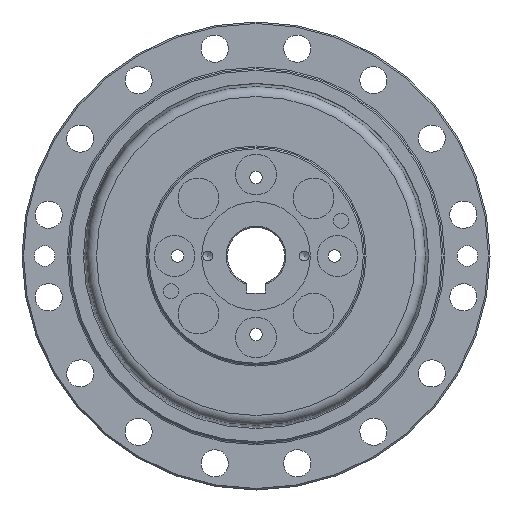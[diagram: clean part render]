
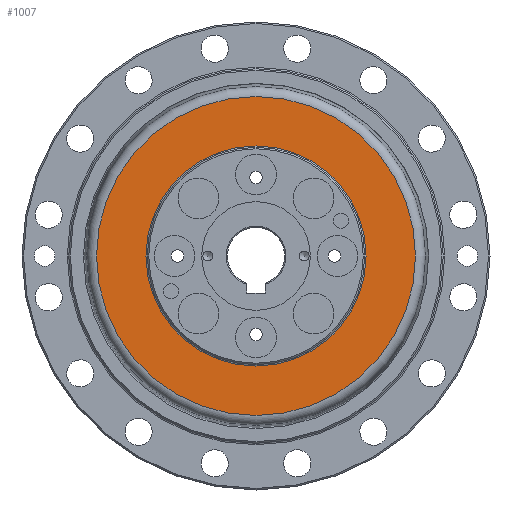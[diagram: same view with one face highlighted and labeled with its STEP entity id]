
A CAD part, left-side view. The second image highlights one B-rep face of the part: STEP entity #1007.
In plain terms, the highlighted planar face has unit normal (-1, 0, 0).
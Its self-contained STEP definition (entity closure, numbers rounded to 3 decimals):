
#54 = EDGE_CURVE ( 'NONE', #3877, #3877, #2907, .T. ) ;
#298 = EDGE_CURVE ( 'NONE', #3832, #3832, #2725, .T. ) ;
#770 = AXIS2_PLACEMENT_3D ( 'NONE', #2512, #6875, #3166 ) ;
#1007 = ADVANCED_FACE ( 'NONE', ( #1882, #1844 ), #1898, .F. ) ;
#1359 = EDGE_LOOP ( 'NONE', ( #6458 ) ) ;
#1576 = DIRECTION ( 'NONE',  ( -1., 0., 0. ) ) ;
#1844 = FACE_OUTER_BOUND ( 'NONE', #1359, .T. ) ;
#1882 = FACE_BOUND ( 'NONE', #3273, .T. ) ;
#1898 = PLANE ( 'NONE',  #3330 ) ;
#2512 = CARTESIAN_POINT ( 'NONE',  ( 3.823, 0., 0. ) ) ;
#2725 = CIRCLE ( 'NONE', #5246, 36.45 ) ;
#2786 = CARTESIAN_POINT ( 'NONE',  ( 3.823, 0., 52.825 ) ) ;
#2907 = CIRCLE ( 'NONE', #770, 52.825 ) ;
#3166 = DIRECTION ( 'NONE',  ( 0., 0., 1. ) ) ;
#3273 = EDGE_LOOP ( 'NONE', ( #5920 ) ) ;
#3330 = AXIS2_PLACEMENT_3D ( 'NONE', #5537, #4298, #5137 ) ;
#3445 = CARTESIAN_POINT ( 'NONE',  ( 3.823, 0., 36.45 ) ) ;
#3832 = VERTEX_POINT ( 'NONE', #3445 ) ;
#3877 = VERTEX_POINT ( 'NONE', #2786 ) ;
#3969 = CARTESIAN_POINT ( 'NONE',  ( 3.823, 0., 0. ) ) ;
#4298 = DIRECTION ( 'NONE',  ( 1., 0., 0. ) ) ;
#5137 = DIRECTION ( 'NONE',  ( 0., 0., -1. ) ) ;
#5246 = AXIS2_PLACEMENT_3D ( 'NONE', #3969, #1576, #5861 ) ;
#5537 = CARTESIAN_POINT ( 'NONE',  ( 3.823, 52.825, 0. ) ) ;
#5861 = DIRECTION ( 'NONE',  ( 0., 0., 1. ) ) ;
#5920 = ORIENTED_EDGE ( 'NONE', *, *, #298, .F. ) ;
#6458 = ORIENTED_EDGE ( 'NONE', *, *, #54, .T. ) ;
#6875 = DIRECTION ( 'NONE',  ( -1., 0., 0. ) ) ;
